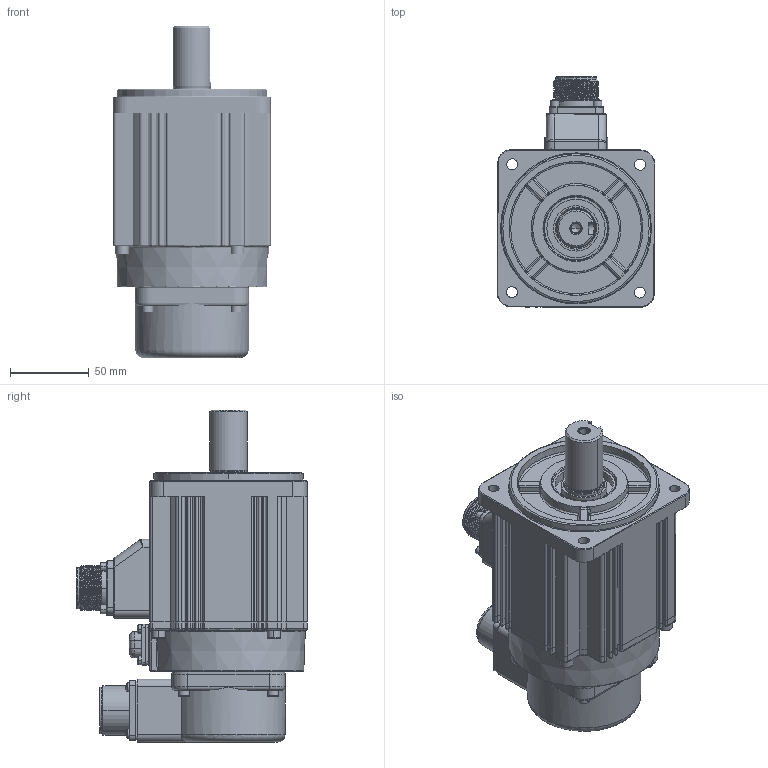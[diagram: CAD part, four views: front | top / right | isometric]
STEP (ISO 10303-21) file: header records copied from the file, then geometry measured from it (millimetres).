
FILE_DESCRIPTION((''),'2;1');
FILE_NAME('IMS20B-10M10C30C-BAOZHA_ASM','2024-10-24T09:01:48',('0109067'),(''),'CREO PARAMETRIC BY PTC INC, 2019080','CREO PARAMETRIC BY PTC INC, 2019080','');
FILE_SCHEMA(('CONFIG_CONTROL_DESIGN'));
Products named in the file (21): 100_JIKE_10C_L32_3_1; 50051-00115_1_1; 18-A6-18FLANGE-CUSTOM-3D_1_1; ISO4762-M3X30-8_8_2_1; 100_DZZJ_10C_ASM_5_ASM_1_ASM; 100_10C_ZHOU_BZ_11_1; 100_HDG_BZ_21_1; 100_ZZZJ_10C_BZ_ASM_3_ASM_1_ASM; BAOZHA_MIFENGDIAN_1_1; BAOZHA_CHUXIANHE_1_1; ISO4762-M5X16-8_8_1_1; M3X8-0001_1_1; 13000_1_1; 100_FHZ_1_1; CMS3102A20-29PE9-A-3D_1_1; ISO7045-M3X16-4_8_1_1; ISO4762-M4X16-8_8_1_1; 100_FHZ_ASM_1_ASM_1_ASM; IMS20B-10M10C30C-BZ_ASM_6_ASM_1_ASM; IMS20B-10M10C30C-00_ASM_1_ASM; IMS20B-10M10C30C-BAOZHA_ASM
Assembly tree (35 placements, depth 5):
  IMS20B-10M10C30C-BAOZHA_ASM
    IMS20B-10M10C30C-00_ASM_1_ASM
      IMS20B-10M10C30C-BZ_ASM_6_ASM_1_ASM
        100_DZZJ_10C_ASM_5_ASM_1_ASM
          100_JIKE_10C_L32_3_1
          50051-00115_1_1
          18-A6-18FLANGE-CUSTOM-3D_1_1
          ISO4762-M3X30-8_8_2_1  x4
        100_ZZZJ_10C_BZ_ASM_3_ASM_1_ASM
          100_10C_ZHOU_BZ_11_1
          100_HDG_BZ_21_1
        BAOZHA_MIFENGDIAN_1_1
        BAOZHA_CHUXIANHE_1_1
        ISO4762-M5X16-8_8_1_1  x4
        M3X8-0001_1_1  x4
        13000_1_1
        100_FHZ_ASM_1_ASM_1_ASM
          100_FHZ_1_1
          CMS3102A20-29PE9-A-3D_1_1
          ISO7045-M3X16-4_8_1_1  x4
          ISO4762-M4X16-8_8_1_1  x4
Bounding box: 100.24 x 146.75 x 211 mm (x, y, z)
Volume: 1338378.4 mm3; surface area: 191967.8 mm2
Topology: 30 solids, 74 shells, 4664 faces, 12678 edges, 8288 vertices
Faces by surface type: plane 2140, cylinder 1120, extrusion 812, torus 221, cone 154, bspline 138, sphere 79
Entity records: 153282 total; most frequent: CARTESIAN_POINT 48434, ORIENTED_EDGE 22828, DIRECTION 19291, EDGE_CURVE 11472, VERTEX_POINT 7571, VECTOR 7505, LINE 6693, AXIS2_PLACEMENT_3D 5893
